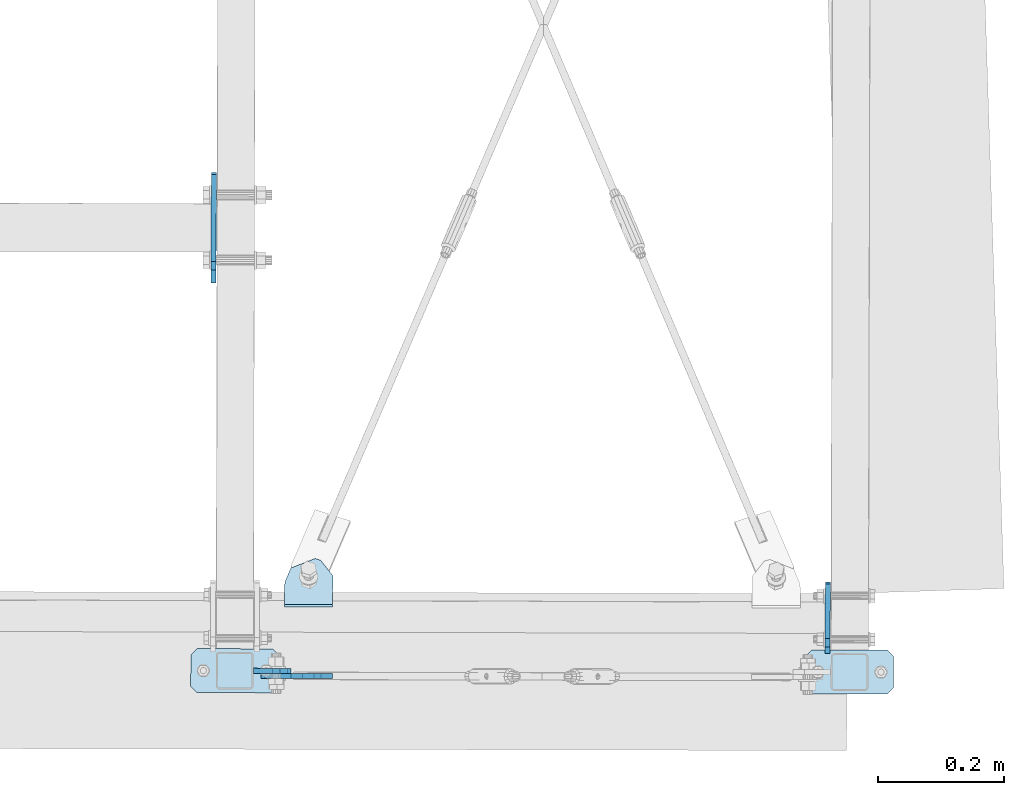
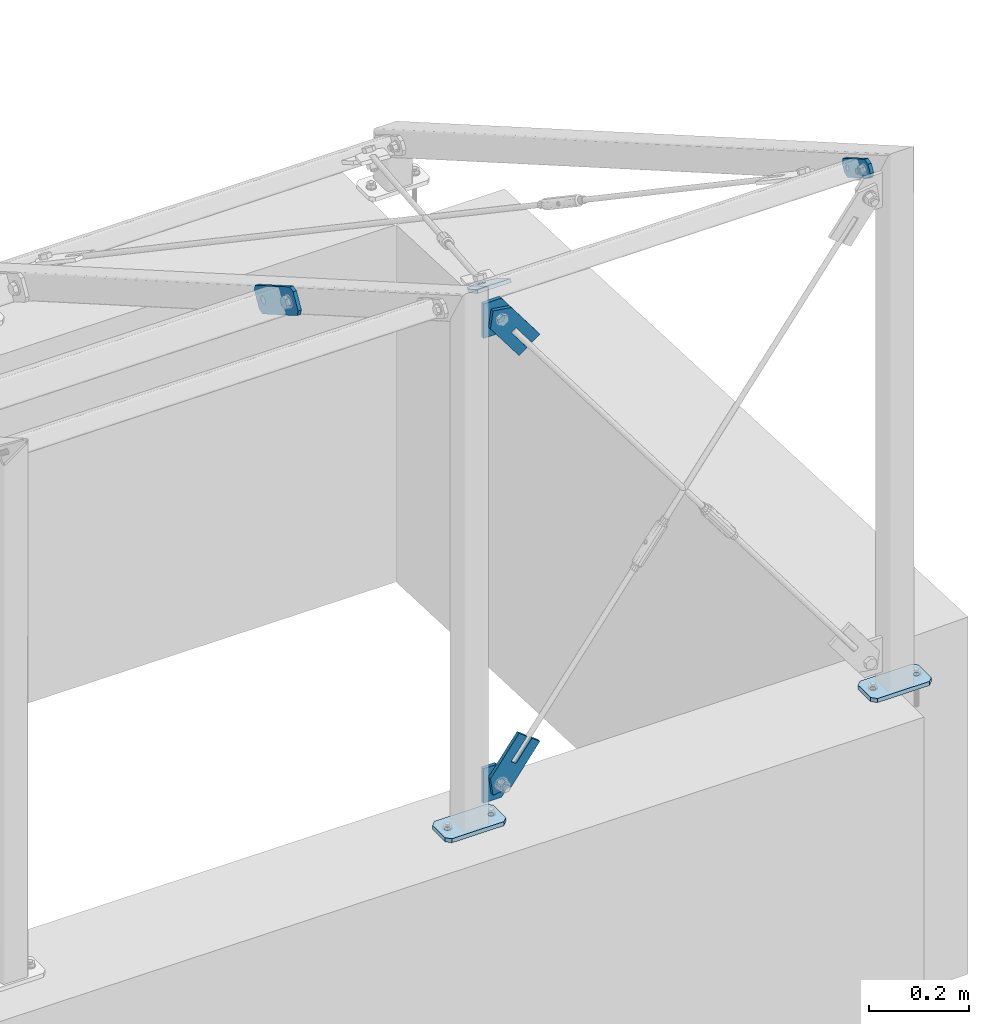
# One storey, part 43 of 288: 9 plates, 40 openings.
"""IFC2X3 building model written with IfcOpenShell, lengths in millimetres."""

from ifc_helpers import new_model, entity, si_unit, converted_unit, point, frame, frame_2d, origin, origin_with_axes, origin_2d_with_axis, place, context, project, spatial, polyline, circle_curve, line_curve, trimmed, segment, composite_curve, circle, outline, extrude, material, layer, layer_set, element, save


model = new_model("IFC2X3")

# Units and contexts
model_context = context("Model", 3, precision=1e-09, world=origin_with_axes())
ifc_project = project(units=[si_unit("LENGTHUNIT", "METRE", prefix="MILLI"), si_unit("AREAUNIT", "SQUARE_METRE"), si_unit("VOLUMEUNIT", "CUBIC_METRE"), converted_unit("PLANEANGLEUNIT", "DEGREE", entity("IfcPlaneAngleMeasure", 0.01745329), si_unit("PLANEANGLEUNIT", "RADIAN"), dimensions=[0, 0, 0, 0, 0, 0, 0])], contexts=[model_context])

# Site, building, storey
site_placement = place(None, origin_with_axes())
site = spatial("IfcSite", under=ifc_project, at=site_placement, Name="Remont ?wietlik?w nad MC w NCPP w Opolu", CompositionType="ELEMENT")
building_placement = place(site_placement, origin_with_axes())
building = spatial("IfcBuilding", under=site, at=building_placement, Name="Konstrukcja 1", CompositionType="ELEMENT")
storey_placement = place(building_placement, origin_with_axes())
storey = spatial("IfcBuildingStorey", under=building, at=storey_placement, Name="Default Storey", CompositionType="ELEMENT", Elevation=0.0)

# Plate, openings
ifc_material = material(Name="S235")
ifc_layer_1 = layer(ifc_material, 8.0)
ifc_layer_set_1 = layer_set([ifc_layer_1], Name="S235")
plate_1_placement = place(None, frame((11055.149450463, -125.252265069, 1232.662274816), z_axis=(0.999997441, -0.002262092, 1.05e-07), x_axis=(0.001959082, 0.866023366, -0.499999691)))
plate_1 = element("IfcPlate", 1, at=plate_1_placement, inside=storey, material=ifc_layer_set_1, Name="-", ObjectType="-", context=model_context, shape_type="SweptSolid", body=[
    extrude(outline(polyline([(0.0, 0.0), (120.0, 0.0), (120.0, 40.0), (0.0, 40.0), (0.0, 0.0)])), origin_with_axes(), (0.0, 0.0, 1.0), 8.0),
])
opening_1_placement = place(plate_1_placement, frame((0.0, 0.0, -0.01), z_axis=(0.0, 0.0, 1.0), x_axis=(1.0, 0.0, 0.0)))
element("IfcOpeningElement", 2, at=opening_1_placement, cuts=plate_1, ObjectType="Opening", context=model_context, shape_type="SweptSolid", body=[
    extrude(outline(composite_curve([segment(trimmed(line_curve((0.0, 40.0), (0.0, -1.0), 10.0), [point((0.0, 40.0))], [point((0.0, 30.0))], True, "CARTESIAN"), True, "CONTINUOUS"), segment(trimmed(circle_curve(frame_2d((10.0, 30.0), x_axis=(-1.0, 0.0)), 10.0), [point((0.0, 30.0))], [point((10.0, 40.0))], False, "CARTESIAN"), True, "CONTINUOUS"), segment(trimmed(line_curve((10.0, 40.0), (-1.0, 0.0), 10.0), [point((10.0, 40.0))], [point((0.0, 40.0))], True, "CARTESIAN"), True, "CONTINUOUS")], self_intersect=False)), origin(), (0.0, 0.0, 1.0), 8.02),
])
opening_2_placement = place(plate_1_placement, frame((0.0, 0.0, -0.01), z_axis=(0.0, 0.0, 1.0), x_axis=(1.0, 0.0, 0.0)))
element("IfcOpeningElement", 3, at=opening_2_placement, cuts=plate_1, ObjectType="Opening", context=model_context, shape_type="SweptSolid", body=[
    extrude(outline(composite_curve([segment(trimmed(line_curve((0.0, 0.0), (1.0, 0.0), 10.0), [point((0.0, 0.0))], [point((10.0, 0.0))], True, "CARTESIAN"), True, "CONTINUOUS"), segment(trimmed(circle_curve(frame_2d((10.0, 10.0), x_axis=(-1.0, 0.0)), 10.0), [point((10.0, 0.0))], [point((0.0, 10.0))], False, "CARTESIAN"), True, "CONTINUOUS"), segment(trimmed(line_curve((0.0, 10.0), (0.0, -1.0), 10.0), [point((0.0, 10.0))], [point((0.0, 0.0))], True, "CARTESIAN"), True, "CONTINUOUS")], self_intersect=False)), origin(), (0.0, 0.0, 1.0), 8.02),
])
opening_3_placement = place(plate_1_placement, frame((0.0, 0.0, -0.01), z_axis=(0.0, 0.0, 1.0), x_axis=(1.0, 0.0, 0.0)))
element("IfcOpeningElement", 4, at=opening_3_placement, cuts=plate_1, ObjectType="Opening", context=model_context, shape_type="SweptSolid", body=[
    extrude(outline(composite_curve([segment(trimmed(line_curve((120.0, 40.0), (-1.0, 0.0), 10.0), [point((120.0, 40.0))], [point((110.0, 40.0))], True, "CARTESIAN"), True, "CONTINUOUS"), segment(trimmed(circle_curve(frame_2d((110.0, 30.0), x_axis=(-1.0, 0.0)), 10.0), [point((110.0, 40.0))], [point((120.0, 30.0))], False, "CARTESIAN"), True, "CONTINUOUS"), segment(trimmed(line_curve((120.0, 30.0), (0.0, 1.0), 10.0), [point((120.0, 30.0))], [point((120.0, 40.0))], True, "CARTESIAN"), True, "CONTINUOUS")], self_intersect=False)), origin(), (0.0, 0.0, 1.0), 8.02),
])
opening_4_placement = place(plate_1_placement, frame((0.0, 0.0, -0.01), z_axis=(0.0, 0.0, 1.0), x_axis=(1.0, 0.0, 0.0)))
element("IfcOpeningElement", 5, at=opening_4_placement, cuts=plate_1, ObjectType="Opening", context=model_context, shape_type="SweptSolid", body=[
    extrude(outline(composite_curve([segment(trimmed(line_curve((120.0, 0.0), (0.0, 1.0), 10.0), [point((120.0, 0.0))], [point((120.0, 10.0))], True, "CARTESIAN"), True, "CONTINUOUS"), segment(trimmed(circle_curve(frame_2d((110.0, 10.0), x_axis=(-1.0, 0.0)), 10.0), [point((120.0, 10.0))], [point((110.0, 0.0))], False, "CARTESIAN"), True, "CONTINUOUS"), segment(trimmed(line_curve((110.0, 0.0), (1.0, 0.0), 10.0), [point((110.0, 0.0))], [point((120.0, 0.0))], True, "CARTESIAN"), True, "CONTINUOUS")], self_intersect=False)), origin(), (0.0, 0.0, 1.0), 8.02),
])
opening_5_placement = place(plate_1_placement, frame((27.001, 20.000292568, -0.5), z_axis=(0.0, 0.0, -1.0), x_axis=(-1.0, 0.0, 0.0)))
element("IfcOpeningElement", 6, at=opening_5_placement, cuts=plate_1, ObjectType="Opening", context=model_context, shape_type="SweptSolid", body=[
    extrude(circle(Radius=7.001, at=frame_2d((7.001, 0.0), x_axis=(1.0, 0.0))), origin(), (0.0, 0.0, -1.0), 9.0),
])
opening_6_placement = place(plate_1_placement, frame((107.001, 20.000292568, -0.5), z_axis=(0.0, 0.0, -1.0), x_axis=(-1.0, 0.0, 0.0)))
element("IfcOpeningElement", 7, at=opening_6_placement, cuts=plate_1, ObjectType="Opening", context=model_context, shape_type="SweptSolid", body=[
    extrude(circle(Radius=7.001, at=frame_2d((7.001, 0.0), x_axis=(1.0, 0.0))), origin(), (0.0, 0.0, -1.0), 9.0),
])

plate_2_placement = place(None, frame((10077.566126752, 494.830721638, 934.943886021), z_axis=(-0.999997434, 0.001134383, -0.001960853), x_axis=(0.001962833, 0.86602336, -0.499999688)))
plate_2 = element("IfcPlate", 8, at=plate_2_placement, inside=storey, material=ifc_layer_set_1, Name="-", ObjectType="-", context=model_context, shape_type="SweptSolid", body=[
    extrude(outline(polyline([(0.0, 0.0), (180.0, 0.0), (180.0, 60.0), (0.0, 60.0), (0.0, 0.0)])), origin_with_axes(), (0.0, 0.0, -1.0), 8.0),
])
opening_7_placement = place(plate_2_placement, frame((0.0, 0.0, 0.01), z_axis=(0.0, 0.0, 1.0), x_axis=(1.0, 0.0, 0.0)))
element("IfcOpeningElement", 9, at=opening_7_placement, cuts=plate_2, ObjectType="Opening", context=model_context, shape_type="SweptSolid", body=[
    extrude(outline(composite_curve([segment(trimmed(line_curve((0.0, 0.0), (1.0, 0.0), 10.0), [point((0.0, 0.0))], [point((10.0, 0.0))], True, "CARTESIAN"), True, "CONTINUOUS"), segment(trimmed(circle_curve(frame_2d((10.0, 10.0), x_axis=(-1.0, 0.0)), 10.0), [point((10.0, 0.0))], [point((0.0, 10.0))], False, "CARTESIAN"), True, "CONTINUOUS"), segment(trimmed(line_curve((0.0, 10.0), (0.0, -1.0), 10.0), [point((0.0, 10.0))], [point((0.0, 0.0))], True, "CARTESIAN"), True, "CONTINUOUS")], self_intersect=False)), origin(), (0.0, 0.0, -1.0), 8.02),
])
opening_8_placement = place(plate_2_placement, frame((0.0, 60.0, 0.01), z_axis=(0.0, 0.0, 1.0), x_axis=(0.0, -1.0, 0.0)))
element("IfcOpeningElement", 10, at=opening_8_placement, cuts=plate_2, ObjectType="Opening", context=model_context, shape_type="SweptSolid", body=[
    extrude(outline(composite_curve([segment(trimmed(line_curve((0.0, 0.0), (1.0, 0.0), 10.0), [point((0.0, 0.0))], [point((10.0, 0.0))], True, "CARTESIAN"), True, "CONTINUOUS"), segment(trimmed(circle_curve(frame_2d((10.0, 10.0), x_axis=(-1.0, 0.0)), 10.0), [point((10.0, 0.0))], [point((0.0, 10.0))], False, "CARTESIAN"), True, "CONTINUOUS"), segment(trimmed(line_curve((0.0, 10.0), (0.0, -1.0), 10.0), [point((0.0, 10.0))], [point((0.0, 0.0))], True, "CARTESIAN"), True, "CONTINUOUS")], self_intersect=False)), origin(), (0.0, 0.0, -1.0), 8.02),
])
opening_9_placement = place(plate_2_placement, frame((180.0, 0.0, 0.01), z_axis=(0.0, 0.0, 1.0), x_axis=(0.0, 1.0, 0.0)))
element("IfcOpeningElement", 11, at=opening_9_placement, cuts=plate_2, ObjectType="Opening", context=model_context, shape_type="SweptSolid", body=[
    extrude(outline(composite_curve([segment(trimmed(line_curve((0.0, 0.0), (1.0, 0.0), 10.0), [point((0.0, 0.0))], [point((10.0, 0.0))], True, "CARTESIAN"), True, "CONTINUOUS"), segment(trimmed(circle_curve(frame_2d((10.0, 10.0), x_axis=(-1.0, 0.0)), 10.0), [point((10.0, 0.0))], [point((0.0, 10.0))], False, "CARTESIAN"), True, "CONTINUOUS"), segment(trimmed(line_curve((0.0, 10.0), (0.0, -1.0), 10.0), [point((0.0, 10.0))], [point((0.0, 0.0))], True, "CARTESIAN"), True, "CONTINUOUS")], self_intersect=False)), origin(), (0.0, 0.0, -1.0), 8.02),
])
opening_10_placement = place(plate_2_placement, frame((180.0, 60.0, 0.01), z_axis=(0.0, 0.0, 1.0), x_axis=(-1.0, 0.0, 0.0)))
element("IfcOpeningElement", 12, at=opening_10_placement, cuts=plate_2, ObjectType="Opening", context=model_context, shape_type="SweptSolid", body=[
    extrude(outline(composite_curve([segment(trimmed(line_curve((0.0, 0.0), (1.0, 0.0), 10.0), [point((0.0, 0.0))], [point((10.0, 0.0))], True, "CARTESIAN"), True, "CONTINUOUS"), segment(trimmed(circle_curve(frame_2d((10.0, 10.0), x_axis=(-1.0, 0.0)), 10.0), [point((10.0, 0.0))], [point((0.0, 10.0))], False, "CARTESIAN"), True, "CONTINUOUS"), segment(trimmed(line_curve((0.0, 10.0), (0.0, -1.0), 10.0), [point((0.0, 10.0))], [point((0.0, 0.0))], True, "CARTESIAN"), True, "CONTINUOUS")], self_intersect=False)), origin(), (0.0, 0.0, -1.0), 8.02),
])
opening_11_placement = place(plate_2_placement, frame((90.0, 30.0, -8.5), z_axis=(0.0, 0.0, 1.0), x_axis=(-1.0, 0.0, 0.0)))
element("IfcOpeningElement", 13, at=opening_11_placement, cuts=plate_2, ObjectType="Opening", context=model_context, shape_type="SweptSolid", body=[
    extrude(circle(Radius=9.001, at=frame_2d((60.0, 0.0), x_axis=(1.0, 0.0))), origin(), (0.0, 0.0, 1.0), 9.0),
])
opening_12_placement = place(plate_2_placement, frame((90.0, 30.0, -8.5), z_axis=(0.0, 0.0, 1.0), x_axis=(-1.0, 0.0, 0.0)))
element("IfcOpeningElement", 14, at=opening_12_placement, cuts=plate_2, ObjectType="Opening", context=model_context, shape_type="SweptSolid", body=[
    extrude(circle(Radius=9.001, at=frame_2d((-60.0, 0.0), x_axis=(1.0, 0.0))), origin(), (0.0, 0.0, 1.0), 9.0),
])

ifc_layer_2 = layer(ifc_material, 10.0)
ifc_layer_set_2 = layer_set([ifc_layer_2], Name="S235")
plate_3_placement = place(None, frame((11164.172602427, -115.169412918, 10.000000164), z_axis=(0.0, 0.0, -1.0), x_axis=(-0.002261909, -0.999997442, 0.0)))
plate_3 = element("IfcPlate", 15, at=plate_3_placement, inside=storey, material=ifc_layer_set_2, Name="Baseplate", ObjectType="Baseplate", context=model_context, shape_type="SweptSolid", body=[
    extrude(outline(polyline([(0.0, 0.0), (70.0, 0.0), (70.0, 140.0), (0.0, 140.0), (0.0, 0.0)])), origin_with_axes(), (0.0, 0.0, 1.0), 10.0),
])
opening_13_placement = place(plate_3_placement, frame((0.0, 0.0, -0.01), z_axis=(0.0, 0.0, 1.0), x_axis=(1.0, 0.0, 0.0)))
element("IfcOpeningElement", 16, at=opening_13_placement, cuts=plate_3, ObjectType="Opening", context=model_context, shape_type="SweptSolid", body=[
    extrude(outline(composite_curve([segment(trimmed(line_curve((70.0, 0.0), (0.0, 1.0), 10.0), [point((70.0, 0.0))], [point((70.0, 10.0))], True, "CARTESIAN"), True, "CONTINUOUS"), segment(trimmed(circle_curve(frame_2d((60.0, 10.0), x_axis=(-1.0, 0.0)), 10.0), [point((70.0, 10.0))], [point((60.0, 0.0))], False, "CARTESIAN"), True, "CONTINUOUS"), segment(trimmed(line_curve((60.0, 0.0), (1.0, 0.0), 10.0), [point((60.0, 0.0))], [point((70.0, 0.0))], True, "CARTESIAN"), True, "CONTINUOUS")], self_intersect=False)), origin(), (0.0, 0.0, 1.0), 10.02),
])
opening_14_placement = place(plate_3_placement, frame((0.0, 0.0, -0.01), z_axis=(0.0, 0.0, 1.0), x_axis=(1.0, 0.0, 0.0)))
element("IfcOpeningElement", 17, at=opening_14_placement, cuts=plate_3, ObjectType="Opening", context=model_context, shape_type="SweptSolid", body=[
    extrude(outline(composite_curve([segment(trimmed(line_curve((0.0, 0.0), (1.0, 0.0), 10.0), [point((0.0, 0.0))], [point((10.0, 0.0))], True, "CARTESIAN"), True, "CONTINUOUS"), segment(trimmed(circle_curve(frame_2d((10.0, 10.0), x_axis=(-1.0, 0.0)), 10.0), [point((10.0, 0.0))], [point((0.0, 10.0))], False, "CARTESIAN"), True, "CONTINUOUS"), segment(trimmed(line_curve((0.0, 10.0), (0.0, -1.0), 10.0), [point((0.0, 10.0))], [point((0.0, 0.0))], True, "CARTESIAN"), True, "CONTINUOUS")], self_intersect=False)), origin(), (0.0, 0.0, 1.0), 10.02),
])
opening_15_placement = place(plate_3_placement, frame((0.0, 0.0, -0.01), z_axis=(0.0, 0.0, 1.0), x_axis=(1.0, 0.0, 0.0)))
element("IfcOpeningElement", 18, at=opening_15_placement, cuts=plate_3, ObjectType="Opening", context=model_context, shape_type="SweptSolid", body=[
    extrude(outline(composite_curve([segment(trimmed(line_curve((70.0, 140.0), (-1.0, 0.0), 10.0), [point((70.0, 140.0))], [point((60.0, 140.0))], True, "CARTESIAN"), True, "CONTINUOUS"), segment(trimmed(circle_curve(frame_2d((60.0, 130.0), x_axis=(-1.0, 0.0)), 10.0), [point((60.0, 140.0))], [point((70.0, 130.0))], False, "CARTESIAN"), True, "CONTINUOUS"), segment(trimmed(line_curve((70.0, 130.0), (0.0, 1.0), 10.0), [point((70.0, 130.0))], [point((70.0, 140.0))], True, "CARTESIAN"), True, "CONTINUOUS")], self_intersect=False)), origin(), (0.0, 0.0, 1.0), 10.02),
])
opening_16_placement = place(plate_3_placement, frame((0.0, 0.0, -0.01), z_axis=(0.0, 0.0, 1.0), x_axis=(1.0, 0.0, 0.0)))
element("IfcOpeningElement", 19, at=opening_16_placement, cuts=plate_3, ObjectType="Opening", context=model_context, shape_type="SweptSolid", body=[
    extrude(outline(composite_curve([segment(trimmed(line_curve((0.0, 140.0), (0.0, -1.0), 10.0), [point((0.0, 140.0))], [point((0.0, 130.0))], True, "CARTESIAN"), True, "CONTINUOUS"), segment(trimmed(circle_curve(frame_2d((10.0, 130.0), x_axis=(-1.0, 0.0)), 10.0), [point((0.0, 130.0))], [point((10.0, 140.0))], False, "CARTESIAN"), True, "CONTINUOUS"), segment(trimmed(line_curve((10.0, 140.0), (-1.0, 0.0), 10.0), [point((10.0, 140.0))], [point((0.0, 140.0))], True, "CARTESIAN"), True, "CONTINUOUS")], self_intersect=False)), origin(), (0.0, 0.0, 1.0), 10.02),
])
opening_17_placement = place(plate_3_placement, frame((35.0, 20.0, 10.5), z_axis=(0.0, 0.0, -1.0), x_axis=(1.0, 0.0, 0.0)))
element("IfcOpeningElement", 20, at=opening_17_placement, cuts=plate_3, ObjectType="Opening", context=model_context, shape_type="SweptSolid", body=[
    extrude(circle(Radius=6.001, at=origin_2d_with_axis()), origin(), (0.0, 0.0, 1.0), 11.0),
])
opening_18_placement = place(plate_3_placement, frame((35.0, 120.0, 10.5), z_axis=(0.0, 0.0, -1.0), x_axis=(1.0, 0.0, 0.0)))
element("IfcOpeningElement", 21, at=opening_18_placement, cuts=plate_3, ObjectType="Opening", context=model_context, shape_type="SweptSolid", body=[
    extrude(circle(Radius=6.001, at=origin_2d_with_axis()), origin(), (0.0, 0.0, 1.0), 11.0),
])

plate_4_placement = place(None, frame((10185.260792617, -112.970492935, 10.000000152), z_axis=(0.0, 0.0, -1.0), x_axis=(-0.002261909, -0.999997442, 0.0)))
plate_4 = element("IfcPlate", 22, at=plate_4_placement, inside=storey, material=ifc_layer_set_2, Name="Baseplate", ObjectType="Baseplate", context=model_context, shape_type="SweptSolid", body=[
    extrude(outline(polyline([(0.0, 0.0), (70.0, 0.0), (70.0, 140.0), (0.0, 140.0), (0.0, 0.0)])), origin_with_axes(), (0.0, 0.0, 1.0), 10.0),
])
opening_19_placement = place(plate_4_placement, frame((0.0, 0.0, -0.01), z_axis=(0.0, 0.0, 1.0), x_axis=(1.0, 0.0, 0.0)))
element("IfcOpeningElement", 23, at=opening_19_placement, cuts=plate_4, ObjectType="Opening", context=model_context, shape_type="SweptSolid", body=[
    extrude(outline(composite_curve([segment(trimmed(line_curve((70.0, 0.0), (0.0, 1.0), 10.0), [point((70.0, 0.0))], [point((70.0, 10.0))], True, "CARTESIAN"), True, "CONTINUOUS"), segment(trimmed(circle_curve(frame_2d((60.0, 10.0), x_axis=(-1.0, 0.0)), 10.0), [point((70.0, 10.0))], [point((60.0, 0.0))], False, "CARTESIAN"), True, "CONTINUOUS"), segment(trimmed(line_curve((60.0, 0.0), (1.0, 0.0), 10.0), [point((60.0, 0.0))], [point((70.0, 0.0))], True, "CARTESIAN"), True, "CONTINUOUS")], self_intersect=False)), origin(), (0.0, 0.0, 1.0), 10.02),
])
opening_20_placement = place(plate_4_placement, frame((0.0, 0.0, -0.01), z_axis=(0.0, 0.0, 1.0), x_axis=(1.0, 0.0, 0.0)))
element("IfcOpeningElement", 24, at=opening_20_placement, cuts=plate_4, ObjectType="Opening", context=model_context, shape_type="SweptSolid", body=[
    extrude(outline(composite_curve([segment(trimmed(line_curve((0.0, 0.0), (1.0, 0.0), 10.0), [point((0.0, 0.0))], [point((10.0, 0.0))], True, "CARTESIAN"), True, "CONTINUOUS"), segment(trimmed(circle_curve(frame_2d((10.0, 10.0), x_axis=(-1.0, 0.0)), 10.0), [point((10.0, 0.0))], [point((0.0, 10.0))], False, "CARTESIAN"), True, "CONTINUOUS"), segment(trimmed(line_curve((0.0, 10.0), (0.0, -1.0), 10.0), [point((0.0, 10.0))], [point((0.0, 0.0))], True, "CARTESIAN"), True, "CONTINUOUS")], self_intersect=False)), origin(), (0.0, 0.0, 1.0), 10.02),
])
opening_21_placement = place(plate_4_placement, frame((0.0, 0.0, -0.01), z_axis=(0.0, 0.0, 1.0), x_axis=(1.0, 0.0, 0.0)))
element("IfcOpeningElement", 25, at=opening_21_placement, cuts=plate_4, ObjectType="Opening", context=model_context, shape_type="SweptSolid", body=[
    extrude(outline(composite_curve([segment(trimmed(line_curve((70.0, 140.0), (-1.0, 0.0), 10.0), [point((70.0, 140.0))], [point((60.0, 140.0))], True, "CARTESIAN"), True, "CONTINUOUS"), segment(trimmed(circle_curve(frame_2d((60.0, 130.0), x_axis=(-1.0, 0.0)), 10.0), [point((60.0, 140.0))], [point((70.0, 130.0))], False, "CARTESIAN"), True, "CONTINUOUS"), segment(trimmed(line_curve((70.0, 130.0), (0.0, 1.0), 10.0), [point((70.0, 130.0))], [point((70.0, 140.0))], True, "CARTESIAN"), True, "CONTINUOUS")], self_intersect=False)), origin(), (0.0, 0.0, 1.0), 10.02),
])
opening_22_placement = place(plate_4_placement, frame((0.0, 0.0, -0.01), z_axis=(0.0, 0.0, 1.0), x_axis=(1.0, 0.0, 0.0)))
element("IfcOpeningElement", 26, at=opening_22_placement, cuts=plate_4, ObjectType="Opening", context=model_context, shape_type="SweptSolid", body=[
    extrude(outline(composite_curve([segment(trimmed(line_curve((0.0, 140.0), (0.0, -1.0), 10.0), [point((0.0, 140.0))], [point((0.0, 130.0))], True, "CARTESIAN"), True, "CONTINUOUS"), segment(trimmed(circle_curve(frame_2d((10.0, 130.0), x_axis=(-1.0, 0.0)), 10.0), [point((0.0, 130.0))], [point((10.0, 140.0))], False, "CARTESIAN"), True, "CONTINUOUS"), segment(trimmed(line_curve((10.0, 140.0), (-1.0, 0.0), 10.0), [point((10.0, 140.0))], [point((0.0, 140.0))], True, "CARTESIAN"), True, "CONTINUOUS")], self_intersect=False)), origin(), (0.0, 0.0, 1.0), 10.02),
])
opening_23_placement = place(plate_4_placement, frame((35.0, 20.0, 10.5), z_axis=(0.0, 0.0, -1.0), x_axis=(1.0, 0.0, 0.0)))
element("IfcOpeningElement", 27, at=opening_23_placement, cuts=plate_4, ObjectType="Opening", context=model_context, shape_type="SweptSolid", body=[
    extrude(circle(Radius=6.001, at=origin_2d_with_axis()), origin(), (0.0, 0.0, 1.0), 11.0),
])
opening_24_placement = place(plate_4_placement, frame((35.0, 120.0, 10.5), z_axis=(0.0, 0.0, -1.0), x_axis=(1.0, 0.0, 0.0)))
element("IfcOpeningElement", 28, at=opening_24_placement, cuts=plate_4, ObjectType="Opening", context=model_context, shape_type="SweptSolid", body=[
    extrude(circle(Radius=6.001, at=origin_2d_with_axis()), origin(), (0.0, 0.0, 1.0), 11.0),
])

plate_5_placement = place(None, frame((10271.051720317, -152.162208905, 158.213850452), z_axis=(-0.002246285, -0.999997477, 0.0), x_axis=(-0.800610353, 0.001798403, 0.599182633)))
plate_5 = element("IfcPlate", 29, at=plate_5_placement, inside=storey, material=ifc_layer_set_1, Name="Tab_Plate#1", ObjectType="Tab_Plate#1", context=model_context, shape_type="SweptSolid", body=[
    extrude(outline(polyline([(0.0, 0.0), (60.0, 0.0), (60.0, 140.0), (0.0, 140.0), (0.0, 0.0)])), origin_with_axes(), (0.0, 0.0, 1.0), 8.0),
])
opening_25_placement = place(plate_5_placement, frame((0.0, 0.0, -0.01), z_axis=(0.0, 0.0, 1.0), x_axis=(1.0, 0.0, 0.0)))
element("IfcOpeningElement", 30, at=opening_25_placement, cuts=plate_5, ObjectType="Opening", context=model_context, shape_type="SweptSolid", body=[
    extrude(outline(composite_curve([segment(trimmed(line_curve((60.0, 140.0), (-1.0, 0.0), 30.0), [point((60.0, 140.0))], [point((30.0, 140.0))], True, "CARTESIAN"), True, "CONTINUOUS"), segment(trimmed(circle_curve(frame_2d((30.0, 110.0), x_axis=(-1.0, 0.0)), 30.0), [point((30.0, 140.0))], [point((60.0, 110.0))], False, "CARTESIAN"), True, "CONTINUOUS"), segment(trimmed(line_curve((60.0, 110.0), (0.0, 1.0), 30.0), [point((60.0, 110.0))], [point((60.0, 140.0))], True, "CARTESIAN"), True, "CONTINUOUS")], self_intersect=False)), origin(), (0.0, 0.0, 1.0), 8.02),
])
opening_26_placement = place(plate_5_placement, frame((0.0, 0.0, -0.01), z_axis=(0.0, 0.0, 1.0), x_axis=(1.0, 0.0, 0.0)))
element("IfcOpeningElement", 31, at=opening_26_placement, cuts=plate_5, ObjectType="Opening", context=model_context, shape_type="SweptSolid", body=[
    extrude(outline(composite_curve([segment(trimmed(line_curve((0.0, 140.0), (0.0, -1.0), 30.0), [point((0.0, 140.0))], [point((0.0, 110.0))], True, "CARTESIAN"), True, "CONTINUOUS"), segment(trimmed(circle_curve(frame_2d((30.0, 110.0), x_axis=(-1.0, 0.0)), 30.0), [point((0.0, 110.0))], [point((30.0, 140.0))], False, "CARTESIAN"), True, "CONTINUOUS"), segment(trimmed(line_curve((30.0, 140.0), (-1.0, 0.0), 30.0), [point((30.0, 140.0))], [point((0.0, 140.0))], True, "CARTESIAN"), True, "CONTINUOUS")], self_intersect=False)), origin(), (0.0, 0.0, 1.0), 8.02),
])
opening_27_placement = place(plate_5_placement, frame((0.0, 0.0, 8.1), z_axis=(0.0, 0.0, -1.0), x_axis=(0.800612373, 0.599182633, 0.0)))
element("IfcOpeningElement", 32, at=opening_27_placement, cuts=plate_5, ObjectType="Opening", context=model_context, shape_type="SweptSolid", body=[
    extrude(outline(polyline([(54.964023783, -35.057553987), (66.174198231, -26.667798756), (29.622859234, 22.171157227), (18.412684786, 13.781401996), (54.964023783, -35.057553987)])), origin(), (0.0, 0.0, 1.0), 8.2),
])
opening_28_placement = place(plate_5_placement, frame((30.0, 110.0, 8.5), z_axis=(0.0, 0.0, -1.0), x_axis=(0.0, -1.0, 0.0)))
element("IfcOpeningElement", 33, at=opening_28_placement, cuts=plate_5, ObjectType="Opening", context=model_context, shape_type="SweptSolid", body=[
    extrude(circle(Radius=9.001, at=origin_2d_with_axis()), origin(), (0.0, 0.0, 1.0), 9.0),
])

plate_6_placement = place(None, frame((10175.080609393, -151.946629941, 130.115818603), z_axis=(0.002246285, 0.999997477, 0.0), x_axis=(0.800610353, -0.001798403, -0.599182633)))
plate_6 = element("IfcPlate", 34, at=plate_6_placement, inside=storey, material=ifc_layer_set_1, Name="Gusset#1", ObjectType="Gusset#1", context=model_context, shape_type="SweptSolid", body=[
    extrude(outline(polyline([(0.0, 0.0), (60.0, 0.0), (60.0, 60.0), (26.379354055, 85.161873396), (-23.944617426, 17.920281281), (0.0, 0.0)])), origin_with_axes(), (0.0, 0.0, 1.0), 8.0),
])
opening_29_placement = place(plate_6_placement, frame((30.0, 30.0, -0.5), z_axis=(0.0, 0.0, 1.0), x_axis=(0.0, -1.0, 0.0)))
element("IfcOpeningElement", 35, at=opening_29_placement, cuts=plate_6, ObjectType="Opening", context=model_context, shape_type="SweptSolid", body=[
    extrude(circle(Radius=9.001, at=origin_2d_with_axis()), origin(), (0.0, 0.0, 1.0), 9.0),
])
opening_30_placement = place(plate_6_placement, frame((0.0, 0.0, -0.01), z_axis=(0.0, 0.0, 1.0), x_axis=(1.0, 0.0, 0.0)))
element("IfcOpeningElement", 36, at=opening_30_placement, cuts=plate_6, ObjectType="Opening", context=model_context, shape_type="SweptSolid", body=[
    extrude(outline(composite_curve([segment(trimmed(line_curve((60.0, 0.0), (0.0, 1.0), 30.0), [point((60.0, 0.0))], [point((60.0, 30.0))], True, "CARTESIAN"), True, "CONTINUOUS"), segment(trimmed(circle_curve(frame_2d((30.0, 30.0), x_axis=(-1.0, 0.0)), 30.0), [point((60.0, 30.0))], [point((30.0, 0.0))], False, "CARTESIAN"), True, "CONTINUOUS"), segment(trimmed(line_curve((30.0, 0.0), (1.0, 0.0), 30.0), [point((30.0, 0.0))], [point((60.0, 0.0))], True, "CARTESIAN"), True, "CONTINUOUS")], self_intersect=False)), origin(), (0.0, 0.0, 1.0), 8.02),
])

plate_7_placement = place(None, frame((10271.033648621, -160.151764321, 1149.786149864), z_axis=(0.002277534, 0.999997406, 0.0), x_axis=(-0.800610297, 0.001823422, -0.599182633)))
plate_7 = element("IfcPlate", 37, at=plate_7_placement, inside=storey, material=ifc_layer_set_1, Name="Tab_Plate#2", ObjectType="Tab_Plate#2", context=model_context, shape_type="SweptSolid", body=[
    extrude(outline(polyline([(0.0, 0.0), (60.0, 0.0), (60.0, 140.0), (0.0, 140.0), (0.0, 0.0)])), origin_with_axes(), (0.0, 0.0, 1.0), 8.0),
])
opening_31_placement = place(plate_7_placement, frame((0.0, 0.0, -0.01), z_axis=(0.0, 0.0, 1.0), x_axis=(1.0, 0.0, 0.0)))
element("IfcOpeningElement", 38, at=opening_31_placement, cuts=plate_7, ObjectType="Opening", context=model_context, shape_type="SweptSolid", body=[
    extrude(outline(composite_curve([segment(trimmed(line_curve((60.0, 140.0), (-1.0, 0.0), 30.0), [point((60.0, 140.0))], [point((30.0, 140.0))], True, "CARTESIAN"), True, "CONTINUOUS"), segment(trimmed(circle_curve(frame_2d((30.0, 110.0), x_axis=(-1.0, 0.0)), 30.0), [point((30.0, 140.0))], [point((60.0, 110.0))], False, "CARTESIAN"), True, "CONTINUOUS"), segment(trimmed(line_curve((60.0, 110.0), (0.0, 1.0), 30.0), [point((60.0, 110.0))], [point((60.0, 140.0))], True, "CARTESIAN"), True, "CONTINUOUS")], self_intersect=False)), origin(), (0.0, 0.0, 1.0), 8.02),
])
opening_32_placement = place(plate_7_placement, frame((0.0, 0.0, -0.01), z_axis=(0.0, 0.0, 1.0), x_axis=(1.0, 0.0, 0.0)))
element("IfcOpeningElement", 39, at=opening_32_placement, cuts=plate_7, ObjectType="Opening", context=model_context, shape_type="SweptSolid", body=[
    extrude(outline(composite_curve([segment(trimmed(line_curve((0.0, 140.0), (0.0, -1.0), 30.0), [point((0.0, 140.0))], [point((0.0, 110.0))], True, "CARTESIAN"), True, "CONTINUOUS"), segment(trimmed(circle_curve(frame_2d((30.0, 110.0), x_axis=(-1.0, 0.0)), 30.0), [point((0.0, 110.0))], [point((30.0, 140.0))], False, "CARTESIAN"), True, "CONTINUOUS"), segment(trimmed(line_curve((30.0, 140.0), (-1.0, 0.0), 30.0), [point((30.0, 140.0))], [point((0.0, 140.0))], True, "CARTESIAN"), True, "CONTINUOUS")], self_intersect=False)), origin(), (0.0, 0.0, 1.0), 8.02),
])
opening_33_placement = place(plate_7_placement, frame((0.0, 0.0, 8.1), z_axis=(0.0, 0.0, -1.0), x_axis=(-0.800612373, -0.599182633, 0.0)))
element("IfcOpeningElement", 40, at=opening_33_placement, cuts=plate_7, ObjectType="Opening", context=model_context, shape_type="SweptSolid", body=[
    extrude(outline(polyline([(-54.964023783, 35.057553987), (-66.174198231, 26.667798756), (-29.622859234, -22.171157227), (-18.412684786, -13.781401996), (-54.964023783, 35.057553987)])), origin(), (0.0, 0.0, 1.0), 8.2),
])
opening_34_placement = place(plate_7_placement, frame((30.0, 110.0, 8.5), z_axis=(0.0, 0.0, -1.0), x_axis=(0.0, -1.0, 0.0)))
element("IfcOpeningElement", 41, at=opening_34_placement, cuts=plate_7, ObjectType="Opening", context=model_context, shape_type="SweptSolid", body=[
    extrude(circle(Radius=9.001, at=origin_2d_with_axis()), origin(), (0.0, 0.0, 1.0), 9.0),
])

plate_8_placement = place(None, frame((10175.098985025, -143.933227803, 1177.884181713), z_axis=(-0.002277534, -0.999997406, 0.0), x_axis=(0.800610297, -0.001823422, 0.599182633)))
plate_8 = element("IfcPlate", 42, at=plate_8_placement, inside=storey, material=ifc_layer_set_1, Name="Gusset#2", ObjectType="Gusset#2", context=model_context, shape_type="SweptSolid", body=[
    extrude(outline(polyline([(0.0, 0.0), (60.0, 0.0), (60.0, 60.0), (26.379153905, 85.162023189), (-23.944817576, 17.920431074), (0.0, 0.0)])), origin_with_axes(), (0.0, 0.0, 1.0), 8.0),
])
opening_35_placement = place(plate_8_placement, frame((30.0, 30.0, -0.5), z_axis=(0.0, 0.0, 1.0), x_axis=(0.0, -1.0, 0.0)))
element("IfcOpeningElement", 43, at=opening_35_placement, cuts=plate_8, ObjectType="Opening", context=model_context, shape_type="SweptSolid", body=[
    extrude(circle(Radius=9.001, at=origin_2d_with_axis()), origin(), (0.0, 0.0, 1.0), 9.0),
])
opening_36_placement = place(plate_8_placement, frame((0.0, 0.0, -0.01), z_axis=(0.0, 0.0, 1.0), x_axis=(1.0, 0.0, 0.0)))
element("IfcOpeningElement", 44, at=opening_36_placement, cuts=plate_8, ObjectType="Opening", context=model_context, shape_type="SweptSolid", body=[
    extrude(outline(composite_curve([segment(trimmed(line_curve((60.0, 0.0), (0.0, 1.0), 30.0), [point((60.0, 0.0))], [point((60.0, 30.0))], True, "CARTESIAN"), True, "CONTINUOUS"), segment(trimmed(circle_curve(frame_2d((30.0, 30.0), x_axis=(-1.0, 0.0)), 30.0), [point((60.0, 30.0))], [point((30.0, 0.0))], False, "CARTESIAN"), True, "CONTINUOUS"), segment(trimmed(line_curve((30.0, 0.0), (1.0, 0.0), 30.0), [point((30.0, 0.0))], [point((60.0, 0.0))], True, "CARTESIAN"), True, "CONTINUOUS")], self_intersect=False)), origin(), (0.0, 0.0, 1.0), 8.02),
])

plate_9_placement = place(None, frame((10271.330668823, 17.831356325, 1169.544003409), z_axis=(0.001127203, 0.499998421, 0.866025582), x_axis=(-0.937108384, 0.302803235, -0.173603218)))
plate_9 = element("IfcPlate", 45, at=plate_9_placement, inside=storey, material=ifc_layer_set_1, Name="Gusset#1", ObjectType="Gusset#1", context=model_context, shape_type="SweptSolid", body=[
    extrude(outline(polyline([(0.0, 0.0), (60.0, 0.0), (60.0, 60.0), (46.61551642, 96.151598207), (-25.687679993, 69.382631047), (0.0, 0.0)])), origin_with_axes(), (0.0, 0.0, 1.0), 8.0),
])
opening_37_placement = place(plate_9_placement, frame((30.0, 30.0, -0.5), z_axis=(0.0, 0.0, 1.0), x_axis=(0.0, -1.0, 0.0)))
element("IfcOpeningElement", 46, at=opening_37_placement, cuts=plate_9, ObjectType="Opening", context=model_context, shape_type="SweptSolid", body=[
    extrude(circle(Radius=9.001, at=origin_2d_with_axis()), origin(), (0.0, 0.0, 1.0), 9.0),
])
opening_38_placement = place(plate_9_placement, frame((0.0, 0.0, -0.01), z_axis=(0.0, 0.0, 1.0), x_axis=(1.0, 0.0, 0.0)))
element("IfcOpeningElement", 47, at=opening_38_placement, cuts=plate_9, ObjectType="Opening", context=model_context, shape_type="SweptSolid", body=[
    extrude(outline(composite_curve([segment(trimmed(line_curve((60.0, 60.0), (-0.347200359, 0.937790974), 5.375198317), [point((60.0, 60.0))], [point((58.133729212, 65.040812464))], True, "CARTESIAN"), True, "CONTINUOUS"), segment(trimmed(circle_curve(frame_2d((30.0, 54.624801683), x_axis=(-1.0, 0.0)), 30.0), [point((58.133729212, 65.040812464))], [point((60.0, 54.624801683))], False, "CARTESIAN"), True, "CONTINUOUS"), segment(trimmed(line_curve((60.0, 54.624801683), (0.0, 1.0), 5.375198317), [point((60.0, 54.624801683))], [point((60.0, 60.0))], True, "CARTESIAN"), True, "CONTINUOUS")], self_intersect=False)), origin(), (0.0, 0.0, 1.0), 8.02),
])
opening_39_placement = place(plate_9_placement, frame((0.0, 0.0, -0.01), z_axis=(0.0, 0.0, 1.0), x_axis=(1.0, 0.0, 0.0)))
element("IfcOpeningElement", 48, at=opening_39_placement, cuts=plate_9, ObjectType="Opening", context=model_context, shape_type="SweptSolid", body=[
    extrude(outline(composite_curve([segment(trimmed(line_curve((60.0, 0.0), (0.0, 1.0), 30.0), [point((60.0, 0.0))], [point((60.0, 30.0))], True, "CARTESIAN"), True, "CONTINUOUS"), segment(trimmed(circle_curve(frame_2d((30.0, 30.0), x_axis=(-1.0, 0.0)), 30.0), [point((60.0, 30.0))], [point((30.0, 0.0))], False, "CARTESIAN"), True, "CONTINUOUS"), segment(trimmed(line_curve((30.0, 0.0), (1.0, 0.0), 30.0), [point((30.0, 0.0))], [point((60.0, 0.0))], True, "CARTESIAN"), True, "CONTINUOUS")], self_intersect=False)), origin(), (0.0, 0.0, 1.0), 8.02),
])
opening_40_placement = place(plate_9_placement, frame((0.0, 0.0, -0.01), z_axis=(0.0, 0.0, 1.0), x_axis=(1.0, 0.0, 0.0)))
element("IfcOpeningElement", 49, at=opening_40_placement, cuts=plate_9, ObjectType="Opening", context=model_context, shape_type="SweptSolid", body=[
    extrude(outline(composite_curve([segment(trimmed(line_curve((0.0, 0.0), (1.0, 0.0), 20.883106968), [point((0.0, 0.0))], [point((20.883106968, 0.0))], True, "CARTESIAN"), True, "CONTINUOUS"), segment(trimmed(circle_curve(frame_2d((20.883106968, 30.0), x_axis=(-1.0, 0.0)), 30.0), [point((20.883106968, 0.0))], [point((-7.250622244, 19.583989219))], False, "CARTESIAN"), True, "CONTINUOUS"), segment(trimmed(line_curve((-7.250622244, 19.583989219), (0.347200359, -0.937790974), 20.883106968), [point((-7.250622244, 19.583989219))], [point((0.0, 0.0))], True, "CARTESIAN"), True, "CONTINUOUS")], self_intersect=False)), origin(), (0.0, 0.0, 1.0), 8.02),
])

save(model, "model.ifc")
